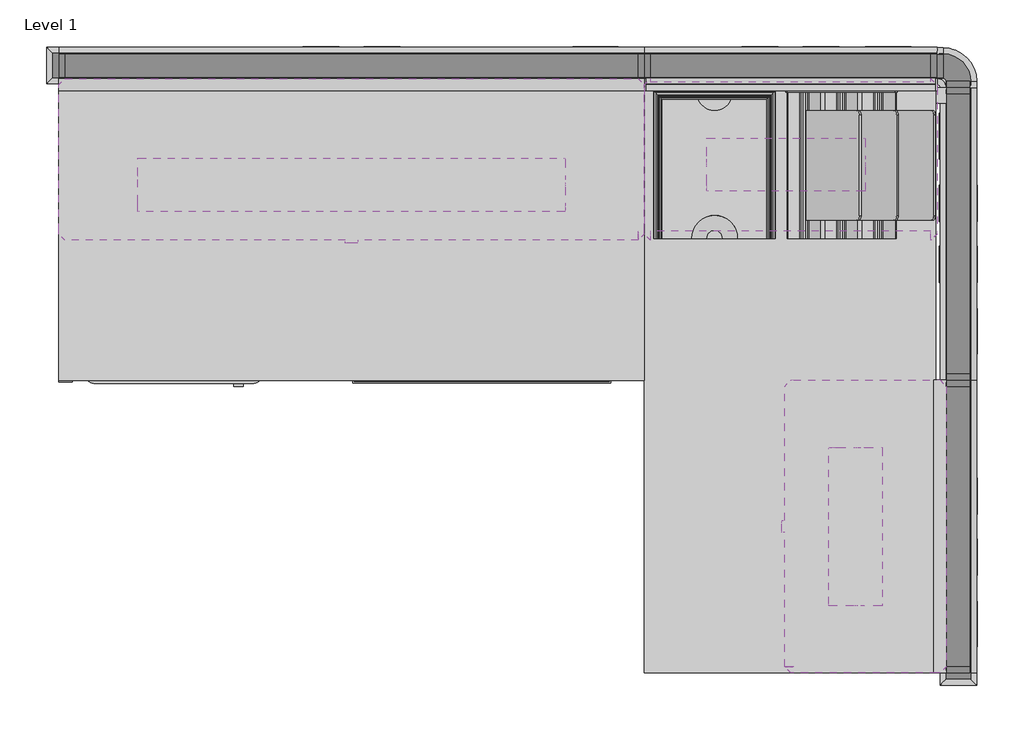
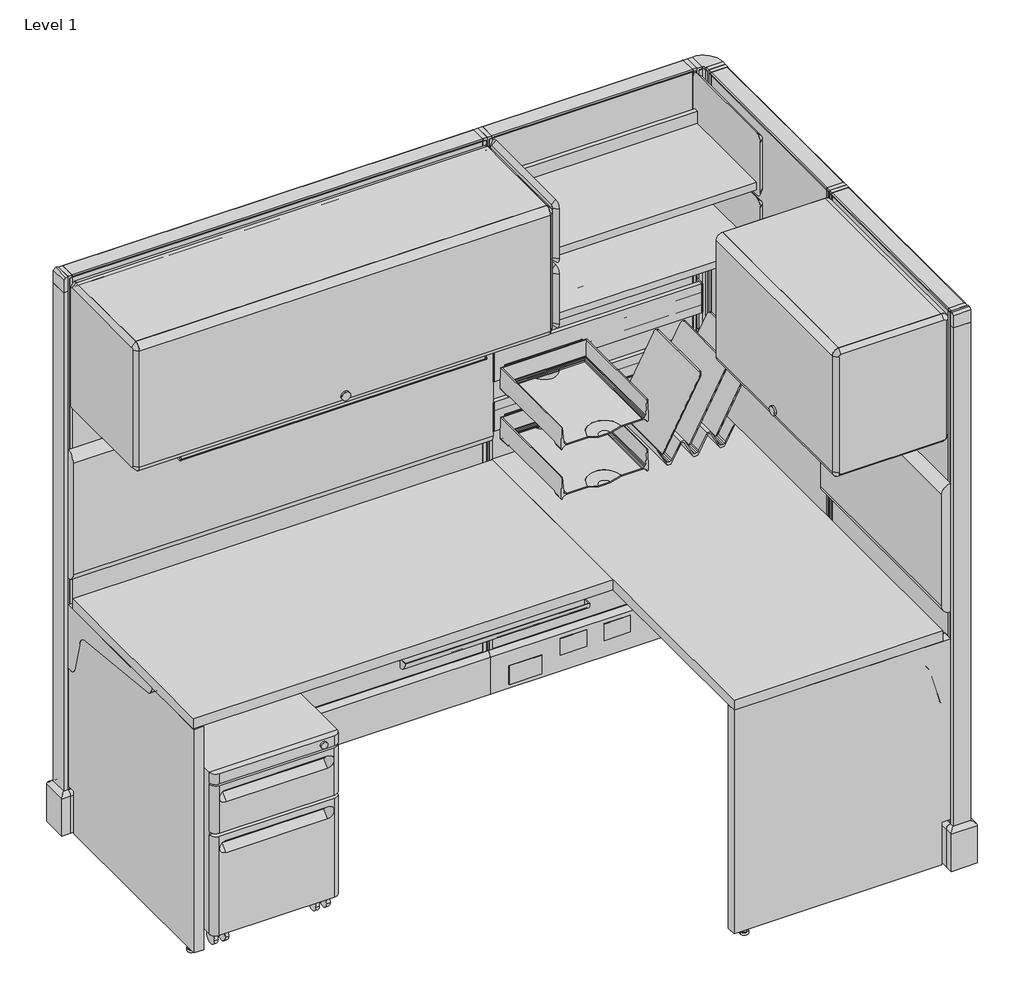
# One storey, incomplete: 24 furniture elements, 3 light fixtures.
"""IFC4 building model written with IfcOpenShell, lengths in millimetres."""

from ifc_helpers import new_model, si_unit, origin, place, context, project, spatial, transform, mapped, element, save
from components import furniture_d54c757f, furniture_75fc3fe0, furniture_a2665887, furniture_baef4f76, furniture_b123b550, furniture_061b7ed1, furniture_6098a880, furniture_20d6c35d, furniture_083a197f, furniture_6a59721d, furniture_2520e590, furniture_cb78dd66, furniture_899296cf, furniture_98713a82, furniture_f221023d, furniture_84c54a78, furniture_b7c7402d, furniture_5c2546f9, furniture_ba981915, light_fixture_74d0946e, light_fixture_06b90bd9, light_fixture_23ee1715

model = new_model("IFC4")

# Units and contexts
model_context = context("Model", 3, world=origin())
ifc_project = project(units=[si_unit("LENGTHUNIT", "METRE", prefix="MILLI")], contexts=[model_context])

# Site, building, storey
site = spatial("IfcSite", under=ifc_project)
building = spatial("IfcBuilding", under=site)
storey = spatial("IfcBuildingStorey", under=building, Name="Level 1", Elevation=0.0)

# Furniture
placement = place(None, origin())
furniture_shape = furniture_d54c757f(model_context)
element("IfcFurniture", 1, ObjectType="HermanMiller_ThrivePortfolio_Y5010_PencilDrawer : 2\"H x 16\"D x 21\"W", at=placement, inside=storey, context=model_context, shape_type="MappedRepresentation", body=[
    mapped(furniture_shape, transform((880.87454, -493.25276, 0.0), x_axis=(1.0, 0.0, 0.0), y_axis=(0.0, 1.0, 0.0), z_axis=(0.0, 0.0, 1.0))),
])
furniture_2_shape = furniture_75fc3fe0(model_context)
element("IfcFurniture", 2, ObjectType="HermanMiller_ThrivePortfolio_Y7218_DiagonalTray : 8 1/2\"H x 12\"D x 13\"W", at=placement, inside=storey, context=model_context, shape_type="MappedRepresentation", body=[
    mapped(furniture_2_shape, transform((1630.016817, -244.50802, 0.0), x_axis=(1.0, 0.0, 0.0), y_axis=(0.0, 1.0, 0.0), z_axis=(0.0, 0.0, 1.0))),
])
furniture_3_shape = furniture_a2665887(model_context)
element("IfcFurniture", 3, ObjectType="HermanMiller_ThrivePortfolio_Y7216_PaperTray : 3\"H x 12\"D x 10\"W", at=placement, inside=storey, context=model_context, shape_type="MappedRepresentation", body=[
    mapped(furniture_3_shape, transform((1365.4024, -244.50802, 0.0), x_axis=(1.0, 0.0, 0.0), y_axis=(0.0, 1.0, 0.0), z_axis=(0.0, 0.0, 1.0))),
])
furniture_4_shape = furniture_baef4f76(model_context)
element("IfcFurniture", 4, ObjectType="HermanMiller_ThrivePortfolio_Y7216_PaperTray : 3\"H x 12\"D x 10\"W", at=placement, inside=storey, context=model_context, shape_type="MappedRepresentation", body=[
    mapped(furniture_4_shape, transform((1365.4024, -244.50802, 0.0), x_axis=(1.0, 0.0, 0.0), y_axis=(0.0, 1.0, 0.0), z_axis=(0.0, 0.0, 1.0))),
])
furniture_5_shape = furniture_b123b550(model_context)
element("IfcFurniture", 5, ObjectType="HermanMiller_ActionOffice_A3352_B-StyleFlipperDoorUnit : 15 1/2\"H x 13\"D x 24\"W", at=placement, inside=storey, context=model_context, shape_type="MappedRepresentation", body=[
    mapped(furniture_5_shape, transform((1666.875, -998.5375, 0.0), x_axis=(0.0, -1.0, 0.0), y_axis=(1.0, 0.0, 0.0), z_axis=(0.0, 0.0, 1.0))),
])
furniture_6_shape = furniture_061b7ed1(model_context)
element("IfcFurniture", 6, ObjectType="HermanMiller_ActionOffice_A3410_B-StyleTackboard : 16\"H x 24\"W", at=placement, inside=storey, context=model_context, shape_type="MappedRepresentation", body=[
    mapped(furniture_6_shape, transform((1835.15, -998.5375, 0.0), x_axis=(0.0, -1.0, 0.0), y_axis=(1.0, 0.0, 0.0), z_axis=(0.0, 0.0, 1.0))),
])
furniture_7_shape = furniture_6098a880(model_context)
element("IfcFurniture", 7, ObjectType="HermanMiller_ActionOffice_A3352_B-StyleFlipperDoorUnit : 15 1/2\"H x 13\"D x 48\"W", at=placement, inside=storey, context=model_context, shape_type="MappedRepresentation", body=[
    mapped(furniture_7_shape, transform((609.6, -246.0625, 0.0), x_axis=(1.0, 0.0, 0.0), y_axis=(0.0, 1.0, 0.0), z_axis=(0.0, 0.0, 1.0))),
])
furniture_8_shape = furniture_20d6c35d(model_context)
element("IfcFurniture", 8, ObjectType="HermanMiller_ActionOffice_A3220_B-StyleStorageDisplay : Shelf 13\"D x 24\"W", at=placement, inside=storey, context=model_context, shape_type="MappedRepresentation", body=[
    mapped(furniture_8_shape, transform((1647.9420045, -246.0625, 0.0), x_axis=(1.0, 0.0, 0.0), y_axis=(0.0, 1.0, 0.0), z_axis=(0.0, 0.0, 1.0))),
])
furniture_9_shape = furniture_083a197f(model_context)
element("IfcFurniture", 9, ObjectType="HermanMiller_ActionOffice_A2310_Sq-EdgeRectangularWorkSurface : 24\"D x 48\"W", at=placement, inside=storey, context=model_context, shape_type="MappedRepresentation", body=[
    mapped(furniture_9_shape, transform((609.6, -379.4125, 0.0), x_axis=(1.0, 0.0, 0.0), y_axis=(0.0, 1.0, 0.0), z_axis=(0.0, 0.0, 1.0))),
])
element("IfcFurniture", 10, ObjectType="HermanMiller_ActionOffice_A2310_Sq-EdgeRectangularWorkSurface : 24\"D x 48\"W", at=placement, inside=storey, context=model_context, shape_type="MappedRepresentation", body=[
    mapped(furniture_9_shape, transform((1533.525, -693.7375, 0.0), x_axis=(0.0, -1.0, 0.0), y_axis=(1.0, 0.0, 0.0), z_axis=(0.0, 0.0, 1.0))),
])
furniture_10_shape = furniture_6a59721d(model_context)
element("IfcFurniture", 11, ObjectType="HermanMiller_ActionOffice_A3610_ToolBar : 4\"H x 24\"W", at=placement, inside=storey, context=model_context, shape_type="MappedRepresentation", body=[
    mapped(furniture_10_shape, transform((1524.0, -77.7874996, 0.0), x_axis=(1.0, 0.0, 0.0), y_axis=(0.0, 1.0, 0.0), z_axis=(0.0, 0.0, 1.0))),
])
furniture_11_shape = furniture_2520e590(model_context)
element("IfcFurniture", 12, ObjectType="HermanMiller_ActionOffice_A3610_ToolBar : 4\"H x 24\"W", at=placement, inside=storey, context=model_context, shape_type="MappedRepresentation", body=[
    mapped(furniture_11_shape, transform((1524.0, -77.7874996, 0.0), x_axis=(1.0, 0.0, 0.0), y_axis=(0.0, 1.0, 0.0), z_axis=(0.0, 0.0, 1.0))),
])
furniture_12_shape = furniture_cb78dd66(model_context)
element("IfcFurniture", 13, ObjectType="HermanMiller_ActionOffice_A3410_B-StyleTackboard : 16\"H x 48\"W", at=placement, inside=storey, context=model_context, shape_type="MappedRepresentation", body=[
    mapped(furniture_12_shape, transform((609.6, -77.7875, 0.0), x_axis=(1.0, 0.0, 0.0), y_axis=(0.0, 1.0, 0.0), z_axis=(0.0, 0.0, 1.0))),
])
furniture_13_shape = furniture_899296cf(model_context)
element("IfcFurniture", 14, ObjectType="HermanMiller_ActionOffice_A3220_B-StyleStorageDisplay : Shelf 13\"D x 24\"W", at=placement, inside=storey, context=model_context, shape_type="MappedRepresentation", body=[
    mapped(furniture_13_shape, transform((1647.9420045, -246.0625, 0.0), x_axis=(1.0, 0.0, 0.0), y_axis=(0.0, 1.0, 0.0), z_axis=(0.0, 0.0, 1.0))),
])
furniture_14_shape = furniture_98713a82(model_context)
element("IfcFurniture", 15, ObjectType="HermanMiller_ActionOffice_A1110_Hard-SurfacedPanelStandardBase : 67\"H x 24\"W-G", at=placement, inside=storey, context=model_context, shape_type="MappedRepresentation", body=[
    mapped(furniture_14_shape, transform((1873.25, -388.4395407, 0.0), x_axis=(0.0, -1.0, 0.0), y_axis=(1.0, 0.0, 0.0), z_axis=(0.0, 0.0, 1.0))),
])
element("IfcFurniture", 16, ObjectType="HermanMiller_ActionOffice_A1110_Hard-SurfacedPanelStandardBase : 67\"H x 24\"W-G", at=placement, inside=storey, context=model_context, shape_type="MappedRepresentation", body=[
    mapped(furniture_14_shape, transform((1524.0, -38.1, 0.0), x_axis=(1.0, 0.0, 0.0), y_axis=(0.0, 1.0, 0.0), z_axis=(0.0, 0.0, 1.0))),
])
element("IfcFurniture", 17, ObjectType="HermanMiller_ActionOffice_A1110_Hard-SurfacedPanelStandardBase : 67\"H x 24\"W-G", at=placement, inside=storey, context=model_context, shape_type="MappedRepresentation", body=[
    mapped(furniture_14_shape, transform((1873.25, -998.5375, 0.0), x_axis=(0.0, -1.0, 0.0), y_axis=(1.0, 0.0, 0.0), z_axis=(0.0, 0.0, 1.0))),
])
furniture_15_shape = furniture_f221023d(model_context)
element("IfcFurniture", 18, ObjectType="HermanMiller_ActionOffice_A1110_Hard-SurfacedPanelStandardBase : 67\"H x 48\"W-G", at=placement, inside=storey, context=model_context, shape_type="MappedRepresentation", body=[
    mapped(furniture_15_shape, transform((609.6, -38.1, 0.0), x_axis=(1.0, 0.0, 0.0), y_axis=(0.0, 1.0, 0.0), z_axis=(0.0, 0.0, 1.0))),
])
furniture_16_shape = furniture_84c54a78(model_context)
element("IfcFurniture", 19, ObjectType="HermanMiller_QuadrantFiling_G5111_MobilePedestal : 21-1/2\"H x 20\"D x 15\"W BF", at=placement, inside=storey, context=model_context, shape_type="MappedRepresentation", body=[
    mapped(furniture_16_shape, transform((239.44326, -436.420263, 0.0), x_axis=(1.0, 0.0, 0.0), y_axis=(0.0, 1.0, 0.0), z_axis=(0.0, 0.0, 1.0))),
])
furniture_17_shape = furniture_b7c7402d(model_context)
element("IfcFurniture", 20, ObjectType="HermanMiller_ActionOffice_A2380_WorkSuraceSupportPanelEnd : 24\"D", at=placement, inside=storey, context=model_context, shape_type="MappedRepresentation", body=[
    mapped(furniture_17_shape, transform((0.0, -696.9125, 0.0), x_axis=(1.0, 0.0, 0.0), y_axis=(0.0, 1.0, 0.0), z_axis=(0.0, 0.0, 1.0))),
])
element("IfcFurniture", 21, ObjectType="HermanMiller_ActionOffice_A2380_WorkSuraceSupportPanelEnd : 24\"D", at=placement, inside=storey, context=model_context, shape_type="MappedRepresentation", body=[
    mapped(furniture_17_shape, transform((1219.2, -1274.7625, 0.0), x_axis=(0.0, -1.0, 0.0), y_axis=(1.0, 0.0, 0.0), z_axis=(0.0, 0.0, 1.0))),
])
furniture_18_shape = furniture_5c2546f9(model_context)
element("IfcFurniture", 22, ObjectType="HermanMiller_ActionOffice_A1271_FinishedEndStandardBase : 67\"H", at=placement, inside=storey, context=model_context, shape_type="MappedRepresentation", body=[
    mapped(furniture_18_shape, transform((4321.9887877, 681.5185512, 0.0), x_axis=(0.0, -1.0, 0.0), y_axis=(1.0, 0.0, 0.0), z_axis=(0.0, 0.0, 1.0))),
])
element("IfcFurniture", 23, ObjectType="HermanMiller_ActionOffice_A1271_FinishedEndStandardBase : 67\"H", at=placement, inside=storey, context=model_context, shape_type="MappedRepresentation", body=[
    mapped(furniture_18_shape, transform((1984.8560512, -2486.8387877, 0.0), x_axis=(-1.0, 0.0, 0.0), y_axis=(0.0, -1.0, 0.0), z_axis=(0.0, 0.0, 1.0))),
])
furniture_19_shape = furniture_ba981915(model_context)
element("IfcFurniture", 24, ObjectType="HermanMiller_ActionOffice_A1220_90ConnectorStandardBase : 67\"H 2-Way-Hard", at=placement, inside=storey, context=model_context, shape_type="MappedRepresentation", body=[
    mapped(furniture_19_shape, transform((1866.9, -53.7034821, 0.0), x_axis=(1.0, 0.0, 0.0), y_axis=(0.0, 1.0, 0.0), z_axis=(0.0, 0.0, 1.0))),
])

# Light fixtures
light_fixture_shape = light_fixture_74d0946e(model_context)
element("IfcLightFixture", 25, ObjectType="HermanMiller_SupplementalProducts_G6136_UtilityTaskLight : AO Etho Canvas 24W", at=placement, inside=storey, context=model_context, shape_type="MappedRepresentation", body=[
    mapped(light_fixture_shape, transform((1514.17274, -244.50802, 0.0), x_axis=(1.0, 0.0, 0.0), y_axis=(0.0, 1.0, 0.0), z_axis=(0.0, 0.0, 1.0))),
])
light_fixture_2_shape = light_fixture_06b90bd9(model_context)
element("IfcLightFixture", 26, ObjectType="HermanMiller_SupplementalProducts_G6136_UtilityTaskLight : AO Etho Canvas 42W", at=placement, inside=storey, context=model_context, shape_type="MappedRepresentation", body=[
    mapped(light_fixture_2_shape, transform((609.6, -286.87776, 0.0), x_axis=(1.0, 0.0, 0.0), y_axis=(0.0, 1.0, 0.0), z_axis=(0.0, 0.0, 1.0))),
])
light_fixture_3_shape = light_fixture_23ee1715(model_context)
element("IfcLightFixture", 27, ObjectType="HermanMiller_SupplementalProducts_G6136_UtilityTaskLight : AO Etho Canvas 24W", at=placement, inside=storey, context=model_context, shape_type="MappedRepresentation", body=[
    mapped(light_fixture_3_shape, transform((1658.9781279, -998.5375, 0.0), x_axis=(0.0, -1.0, 0.0), y_axis=(1.0, 0.0, 0.0), z_axis=(0.0, 0.0, 1.0))),
])

save(model, "model.ifc")
